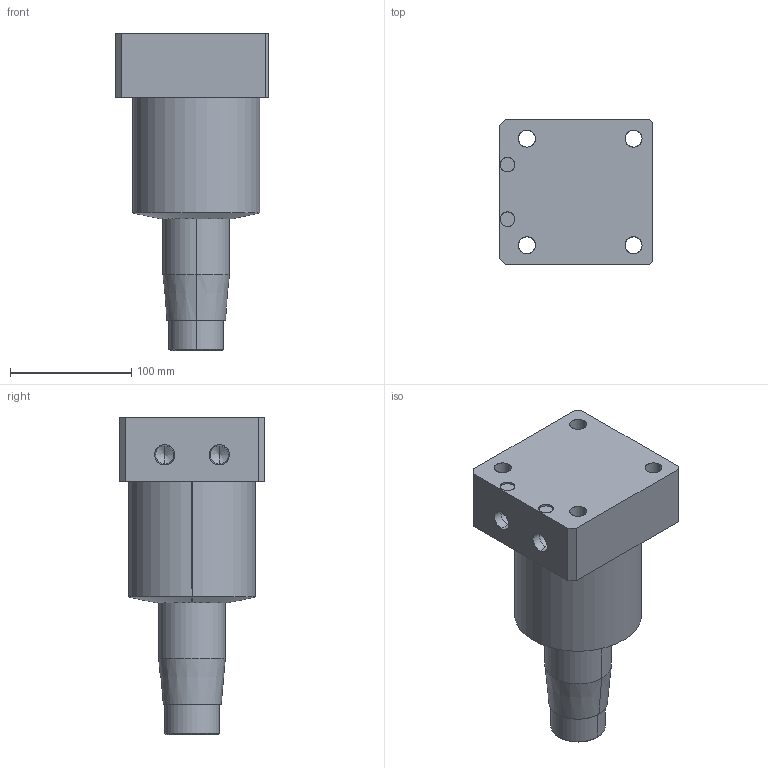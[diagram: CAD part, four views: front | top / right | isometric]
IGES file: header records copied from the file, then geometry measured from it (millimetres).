
Start section: SolidWorks IGES file using analytic representation for surfaces
Global section: file name: E:\ALL SSVT IGS MODEL\ALL-SWING-IGS\SWING-105\SB03-1051-R-BM-TAPER.IGS; native system: SolidWorks 2019; preprocessor: SolidWorks 2019; author: SSVT; date: 210823.143619; units: millimetre
Bounding box: 127 x 120 x 262 mm (x, y, z)
Surface area: 145166.4 mm2 (no closed solid volume)
Topology: 0 solids, 0 shells, 59 faces, 1186 edges, 1182 vertices
Faces by surface type: revolution 38, bspline 21
